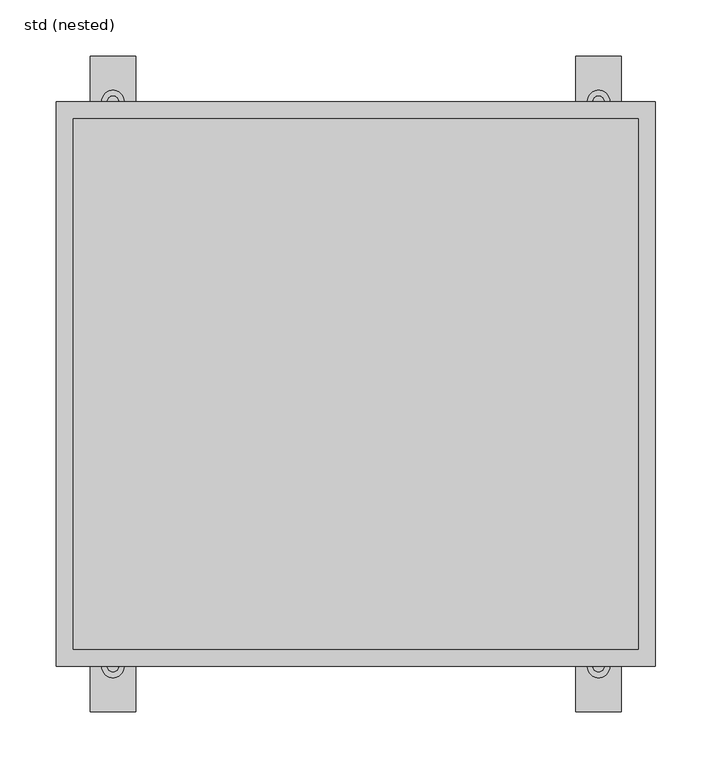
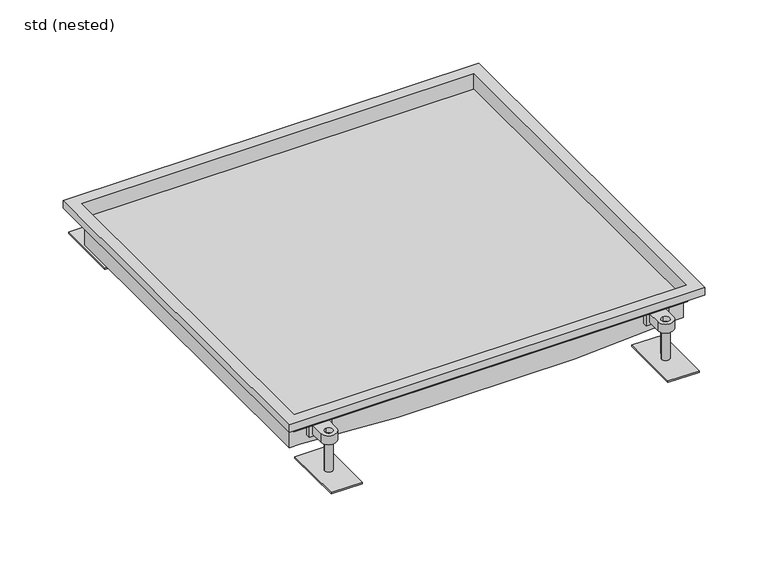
"""IFC4 building model written with IfcOpenShell, lengths in millimetres: sanitary terminal geometry, ZZZ_do not use_PF_ST_UN_hygienic box channel_ACO : std (nested)."""

from ifc_helpers import new_model, si_unit, point, frame, frame_2d, origin, place, context, project, spatial, polyline, circle_curve, trimmed, segment, composite_curve, outline, extrude, faceted_brep, source, transform, mapped, element, save
from ifc_brep_helpers import plane_surface, cylinder_surface, advanced_brep


def std_nested_bf99f5a6(model_context):
    return source(origin(), model_context, "Body", "SolidModel", [
        extrude(outline(composite_curve([segment(polyline([(225.0, 232.5), (205.0, 232.5), (205.0, 250.0)]), True, "CONTINUOUS"), segment(trimmed(circle_curve(frame_2d((215.0, 250.0)), 10.0), [point((205.0, 250.0))], [point((225.0, 250.0))], False, "CARTESIAN"), True, "CONTINUOUS"), segment(polyline([(225.0, 250.0), (225.0, 232.5)]), True, "CONTINUOUS")], self_intersect=False), holes=[composite_curve([segment(trimmed(circle_curve(frame_2d((215.0, 250.0)), 5.0), [point((215.0, 245.0))], [point((215.0, 255.0))], True, "CARTESIAN"), True, "CONTINUOUS"), segment(trimmed(circle_curve(frame_2d((215.0, 250.0)), 5.0), [point((215.0, 255.0))], [point((215.0, 245.0))], True, "CARTESIAN"), True, "CONTINUOUS")], self_intersect=False)]), frame((0.0, 0.0, -37.0), z_axis=(0.0, 0.0, 1.0), x_axis=(1.0, 0.0, 0.0)), (0.0, 0.0, 1.0), 12.0),
        advanced_brep(
        [(210.0, 250.0, -31.0), (220.0, 250.0, -31.0), (235.0, 210.0, -79.5), (195.0, 210.0, -79.5), (195.0, 290.0, -79.5), (235.0, 290.0, -79.5), (220.0, 250.0, -77.5), (210.0, 250.0, -77.5), (235.0, 210.0, -77.5), (235.0, 290.0, -77.5), (195.0, 290.0, -77.5), (195.0, 210.0, -77.5)],
        [
            (0, 1, circle_curve(frame((215.0, 250.0, -31.0), z_axis=(0.0, 0.0, 1.0), x_axis=(1.0, 0.0, 0.0)), 5.0)),
            (1, 0, circle_curve(frame((215.0, 250.0, -31.0), z_axis=(0.0, 0.0, 1.0), x_axis=(1.0, 0.0, 0.0)), 5.0)),
            (2, 3),
            (3, 4),
            (4, 5),
            (5, 2),
            (1, 6),
            (6, 7, circle_curve(frame((215.0, 250.0, -77.5), z_axis=(0.0, 0.0, 1.0), x_axis=(1.0, 0.0, 0.0)), 5.0)),
            (7, 0),
            (7, 6, circle_curve(frame((215.0, 250.0, -77.5), z_axis=(0.0, 0.0, 1.0), x_axis=(1.0, 0.0, 0.0)), 5.0)),
            (8, 9),
            (9, 10),
            (10, 11),
            (11, 8),
            (11, 3),
            (2, 8),
            (10, 4),
            (9, 5),
        ],
        [
            plane_surface(frame((220.0, 250.0, -31.0), z_axis=(0.0, 0.0, 1.0), x_axis=(0.0, -1.0, 0.0))),
            plane_surface(frame((220.0, 250.0, -79.5), z_axis=(0.0, 0.0, -1.0), x_axis=(0.0, 1.0, 0.0))),
            cylinder_surface(frame((215.0, 250.0, -79.5), z_axis=(0.0, 0.0, 1.0), x_axis=(1.0, 0.0, 0.0)), 5.0),
            plane_surface(frame((195.0, 210.0, -77.5), z_axis=(0.0, 0.0, 1.0), x_axis=(-1.0, 0.0, 0.0))),
            plane_surface(frame((235.0, 210.0, -77.5), z_axis=(0.0, -1.0, 0.0), x_axis=(0.0, 0.0, -1.0))),
            plane_surface(frame((195.0, 210.0, -77.5), z_axis=(-1.0, 0.0, 0.0), x_axis=(0.0, 0.0, -1.0))),
            plane_surface(frame((195.0, 290.0, -77.5), z_axis=(0.0, 1.0, 0.0), x_axis=(0.0, 0.0, -1.0))),
            plane_surface(frame((235.0, 290.0, -77.5), z_axis=(1.0, 0.0, 0.0), x_axis=(0.0, 0.0, -1.0))),
        ],
        [
            (0, [[1, 2]]),
            (1, [[3, 4, 5, 6]]),
            (2, [[7, 8, 9, -2]]),
            (2, [[-9, 10, -7, -1]]),
            (3, [[11, 12, 13, 14], [-10, -8]]),
            (4, [[15, -3, 16, -14]]),
            (5, [[17, -4, -15, -13]]),
            (6, [[18, -5, -17, -12]]),
            (7, [[-16, -6, -18, -11]]),
        ],
    ),
        extrude(outline(polyline([(229.35, 224.5), (200.65, 224.5), (200.65, 232.5), (229.35, 232.5), (229.35, 224.5)])), frame((0.0, 0.0, -40.0), z_axis=(0.0, 0.0, 1.0), x_axis=(1.0, 0.0, 0.0)), (0.0, 0.0, 1.0), 18.0),
        extrude(outline(composite_curve([segment(polyline([(225.0, -232.5), (225.0, -250.0)]), True, "CONTINUOUS"), segment(trimmed(circle_curve(frame_2d((215.0, -250.0)), 10.0), [point((225.0, -250.0))], [point((205.0, -250.0))], False, "CARTESIAN"), True, "CONTINUOUS"), segment(polyline([(205.0, -250.0), (205.0, -232.5), (225.0, -232.5)]), True, "CONTINUOUS")], self_intersect=False), holes=[composite_curve([segment(trimmed(circle_curve(frame_2d((215.0, -250.0)), 5.0), [point((215.0, -245.0))], [point((215.0, -255.0))], True, "CARTESIAN"), True, "CONTINUOUS"), segment(trimmed(circle_curve(frame_2d((215.0, -250.0)), 5.0), [point((215.0, -255.0))], [point((215.0, -245.0))], True, "CARTESIAN"), True, "CONTINUOUS")], self_intersect=False)]), frame((0.0, 0.0, -37.0), z_axis=(0.0, 0.0, 1.0), x_axis=(1.0, 0.0, 0.0)), (0.0, 0.0, 1.0), 12.0),
        advanced_brep(
        [(210.0, -250.0, -31.0), (220.0, -250.0, -31.0), (235.0, -210.0, -79.5), (235.0, -290.0, -79.5), (195.0, -290.0, -79.5), (195.0, -210.0, -79.5), (210.0, -250.0, -77.5), (220.0, -250.0, -77.5), (235.0, -210.0, -77.5), (195.0, -210.0, -77.5), (195.0, -290.0, -77.5), (235.0, -290.0, -77.5)],
        [
            (0, 1, circle_curve(frame((215.0, -250.0, -31.0), z_axis=(0.0, 0.0, 1.0), x_axis=(1.0, 0.0, 0.0)), 5.0)),
            (1, 0, circle_curve(frame((215.0, -250.0, -31.0), z_axis=(0.0, 0.0, 1.0), x_axis=(1.0, 0.0, 0.0)), 5.0)),
            (2, 3),
            (3, 4),
            (4, 5),
            (5, 2),
            (0, 6),
            (6, 7, circle_curve(frame((215.0, -250.0, -77.5), z_axis=(0.0, 0.0, 1.0), x_axis=(1.0, 0.0, 0.0)), 5.0)),
            (7, 1),
            (7, 6, circle_curve(frame((215.0, -250.0, -77.5), z_axis=(0.0, 0.0, 1.0), x_axis=(1.0, 0.0, 0.0)), 5.0)),
            (8, 9),
            (9, 10),
            (10, 11),
            (11, 8),
            (8, 2),
            (5, 9),
            (4, 10),
            (3, 11),
        ],
        [
            plane_surface(frame((220.0, -250.0, -31.0), z_axis=(0.0, 0.0, 1.0), x_axis=(0.0, 1.0, 0.0))),
            plane_surface(frame((220.0, -250.0, -79.5), z_axis=(0.0, 0.0, -1.0), x_axis=(0.0, -1.0, 0.0))),
            cylinder_surface(frame((215.0, -250.0, -79.5), z_axis=(0.0, 0.0, 1.0), x_axis=(1.0, 0.0, 0.0)), 5.0),
            plane_surface(frame((195.0, -210.0, -77.5), z_axis=(0.0, 0.0, 1.0), x_axis=(-1.0, 0.0, 0.0))),
            plane_surface(frame((235.0, -210.0, -77.5), z_axis=(0.0, 1.0, 0.0), x_axis=(0.0, 0.0, -1.0))),
            plane_surface(frame((195.0, -210.0, -77.5), z_axis=(-1.0, 0.0, 0.0), x_axis=(0.0, 0.0, -1.0))),
            plane_surface(frame((195.0, -290.0, -77.5), z_axis=(0.0, -1.0, 0.0), x_axis=(0.0, 0.0, -1.0))),
            plane_surface(frame((235.0, -290.0, -77.5), z_axis=(1.0, 0.0, 0.0), x_axis=(0.0, 0.0, -1.0))),
        ],
        [
            (0, [[1, 2]]),
            (1, [[3, 4, 5, 6]]),
            (2, [[-1, 7, 8, 9]]),
            (2, [[-2, -9, 10, -7]]),
            (3, [[11, 12, 13, 14], [-8, -10]]),
            (4, [[-11, 15, -6, 16]]),
            (5, [[-12, -16, -5, 17]]),
            (6, [[-13, -17, -4, 18]]),
            (7, [[-14, -18, -3, -15]]),
        ],
    ),
        extrude(outline(polyline([(229.35, -224.5), (229.35, -232.5), (200.65, -232.5), (200.65, -224.5), (229.35, -224.5)])), frame((0.0, 0.0, -40.0), z_axis=(0.0, 0.0, 1.0), x_axis=(1.0, 0.0, 0.0)), (0.0, 0.0, 1.0), 18.0),
        extrude(outline(composite_curve([segment(polyline([(-205.0, 232.5), (-225.0, 232.5), (-225.0, 250.0)]), True, "CONTINUOUS"), segment(trimmed(circle_curve(frame_2d((-215.0, 250.0)), 10.0), [point((-225.0, 250.0))], [point((-205.0, 250.0))], False, "CARTESIAN"), True, "CONTINUOUS"), segment(polyline([(-205.0, 250.0), (-205.0, 232.5)]), True, "CONTINUOUS")], self_intersect=False), holes=[composite_curve([segment(trimmed(circle_curve(frame_2d((-215.0, 250.0)), 5.0), [point((-215.0, 245.0))], [point((-215.0, 255.0))], True, "CARTESIAN"), True, "CONTINUOUS"), segment(trimmed(circle_curve(frame_2d((-215.0, 250.0)), 5.0), [point((-215.0, 255.0))], [point((-215.0, 245.0))], True, "CARTESIAN"), True, "CONTINUOUS")], self_intersect=False)]), frame((0.0, 0.0, -37.0), z_axis=(0.0, 0.0, 1.0), x_axis=(1.0, 0.0, 0.0)), (0.0, 0.0, 1.0), 12.0),
        advanced_brep(
        [(-220.0, 250.0, -31.0), (-210.0, 250.0, -31.0), (-195.0, 210.0, -79.5), (-235.0, 210.0, -79.5), (-235.0, 290.0, -79.5), (-195.0, 290.0, -79.5), (-210.0, 250.0, -77.5), (-220.0, 250.0, -77.5), (-195.0, 210.0, -77.5), (-195.0, 290.0, -77.5), (-235.0, 290.0, -77.5), (-235.0, 210.0, -77.5)],
        [
            (0, 1, circle_curve(frame((-215.0, 250.0, -31.0), z_axis=(0.0, 0.0, 1.0), x_axis=(1.0, 0.0, 0.0)), 5.0)),
            (1, 0, circle_curve(frame((-215.0, 250.0, -31.0), z_axis=(0.0, 0.0, 1.0), x_axis=(1.0, 0.0, 0.0)), 5.0)),
            (2, 3),
            (3, 4),
            (4, 5),
            (5, 2),
            (1, 6),
            (6, 7, circle_curve(frame((-215.0, 250.0, -77.5), z_axis=(0.0, 0.0, 1.0), x_axis=(1.0, 0.0, 0.0)), 5.0)),
            (7, 0),
            (7, 6, circle_curve(frame((-215.0, 250.0, -77.5), z_axis=(0.0, 0.0, 1.0), x_axis=(1.0, 0.0, 0.0)), 5.0)),
            (8, 9),
            (9, 10),
            (10, 11),
            (11, 8),
            (11, 3),
            (2, 8),
            (10, 4),
            (9, 5),
        ],
        [
            plane_surface(frame((-210.0, 250.0, -31.0), z_axis=(0.0, 0.0, 1.0), x_axis=(0.0, -1.0, 0.0))),
            plane_surface(frame((-210.0, 250.0, -79.5), z_axis=(0.0, 0.0, -1.0), x_axis=(0.0, 1.0, 0.0))),
            cylinder_surface(frame((-215.0, 250.0, -79.5), z_axis=(0.0, 0.0, 1.0), x_axis=(1.0, 0.0, 0.0)), 5.0),
            plane_surface(frame((-235.0, 210.0, -77.5), z_axis=(0.0, 0.0, 1.0), x_axis=(-1.0, 0.0, 0.0))),
            plane_surface(frame((-195.0, 210.0, -77.5), z_axis=(0.0, -1.0, 0.0), x_axis=(0.0, 0.0, -1.0))),
            plane_surface(frame((-235.0, 210.0, -77.5), z_axis=(-1.0, 0.0, 0.0), x_axis=(0.0, 0.0, -1.0))),
            plane_surface(frame((-235.0, 290.0, -77.5), z_axis=(0.0, 1.0, 0.0), x_axis=(0.0, 0.0, -1.0))),
            plane_surface(frame((-195.0, 290.0, -77.5), z_axis=(1.0, 0.0, 0.0), x_axis=(0.0, 0.0, -1.0))),
        ],
        [
            (0, [[1, 2]]),
            (1, [[3, 4, 5, 6]]),
            (2, [[7, 8, 9, -2]]),
            (2, [[-9, 10, -7, -1]]),
            (3, [[11, 12, 13, 14], [-10, -8]]),
            (4, [[15, -3, 16, -14]]),
            (5, [[17, -4, -15, -13]]),
            (6, [[18, -5, -17, -12]]),
            (7, [[-16, -6, -18, -11]]),
        ],
    ),
        extrude(outline(polyline([(-200.65, 224.5), (-229.35, 224.5), (-229.35, 232.5), (-200.65, 232.5), (-200.65, 224.5)])), frame((0.0, 0.0, -40.0), z_axis=(0.0, 0.0, 1.0), x_axis=(1.0, 0.0, 0.0)), (0.0, 0.0, 1.0), 18.0),
        extrude(outline(composite_curve([segment(polyline([(-205.0, -232.5), (-205.0, -250.0)]), True, "CONTINUOUS"), segment(trimmed(circle_curve(frame_2d((-215.0, -250.0)), 10.0), [point((-205.0, -250.0))], [point((-225.0, -250.0))], False, "CARTESIAN"), True, "CONTINUOUS"), segment(polyline([(-225.0, -250.0), (-225.0, -232.5), (-205.0, -232.5)]), True, "CONTINUOUS")], self_intersect=False), holes=[composite_curve([segment(trimmed(circle_curve(frame_2d((-215.0, -250.0)), 5.0), [point((-215.0, -245.0))], [point((-215.0, -255.0))], True, "CARTESIAN"), True, "CONTINUOUS"), segment(trimmed(circle_curve(frame_2d((-215.0, -250.0)), 5.0), [point((-215.0, -255.0))], [point((-215.0, -245.0))], True, "CARTESIAN"), True, "CONTINUOUS")], self_intersect=False)]), frame((0.0, 0.0, -37.0), z_axis=(0.0, 0.0, 1.0), x_axis=(1.0, 0.0, 0.0)), (0.0, 0.0, 1.0), 12.0),
        advanced_brep(
        [(-220.0, -250.0, -31.0), (-210.0, -250.0, -31.0), (-195.0, -210.0, -79.5), (-195.0, -290.0, -79.5), (-235.0, -290.0, -79.5), (-235.0, -210.0, -79.5), (-220.0, -250.0, -77.5), (-210.0, -250.0, -77.5), (-195.0, -210.0, -77.5), (-235.0, -210.0, -77.5), (-235.0, -290.0, -77.5), (-195.0, -290.0, -77.5)],
        [
            (0, 1, circle_curve(frame((-215.0, -250.0, -31.0), z_axis=(0.0, 0.0, 1.0), x_axis=(1.0, 0.0, 0.0)), 5.0)),
            (1, 0, circle_curve(frame((-215.0, -250.0, -31.0), z_axis=(0.0, 0.0, 1.0), x_axis=(1.0, 0.0, 0.0)), 5.0)),
            (2, 3),
            (3, 4),
            (4, 5),
            (5, 2),
            (0, 6),
            (6, 7, circle_curve(frame((-215.0, -250.0, -77.5), z_axis=(0.0, 0.0, 1.0), x_axis=(1.0, 0.0, 0.0)), 5.0)),
            (7, 1),
            (7, 6, circle_curve(frame((-215.0, -250.0, -77.5), z_axis=(0.0, 0.0, 1.0), x_axis=(1.0, 0.0, 0.0)), 5.0)),
            (8, 9),
            (9, 10),
            (10, 11),
            (11, 8),
            (8, 2),
            (5, 9),
            (4, 10),
            (3, 11),
        ],
        [
            plane_surface(frame((-210.0, -250.0, -31.0), z_axis=(0.0, 0.0, 1.0), x_axis=(0.0, 1.0, 0.0))),
            plane_surface(frame((-210.0, -250.0, -79.5), z_axis=(0.0, 0.0, -1.0), x_axis=(0.0, -1.0, 0.0))),
            cylinder_surface(frame((-215.0, -250.0, -79.5), z_axis=(0.0, 0.0, 1.0), x_axis=(1.0, 0.0, 0.0)), 5.0),
            plane_surface(frame((-235.0, -210.0, -77.5), z_axis=(0.0, 0.0, 1.0), x_axis=(-1.0, 0.0, 0.0))),
            plane_surface(frame((-195.0, -210.0, -77.5), z_axis=(0.0, 1.0, 0.0), x_axis=(0.0, 0.0, -1.0))),
            plane_surface(frame((-235.0, -210.0, -77.5), z_axis=(-1.0, 0.0, 0.0), x_axis=(0.0, 0.0, -1.0))),
            plane_surface(frame((-235.0, -290.0, -77.5), z_axis=(0.0, -1.0, 0.0), x_axis=(0.0, 0.0, -1.0))),
            plane_surface(frame((-195.0, -290.0, -77.5), z_axis=(1.0, 0.0, 0.0), x_axis=(0.0, 0.0, -1.0))),
        ],
        [
            (0, [[1, 2]]),
            (1, [[3, 4, 5, 6]]),
            (2, [[-1, 7, 8, 9]]),
            (2, [[-2, -9, 10, -7]]),
            (3, [[11, 12, 13, 14], [-8, -10]]),
            (4, [[-11, 15, -6, 16]]),
            (5, [[-12, -16, -5, 17]]),
            (6, [[-13, -17, -4, 18]]),
            (7, [[-14, -18, -3, -15]]),
        ],
    ),
        extrude(outline(polyline([(-200.65, -224.5), (-200.65, -232.5), (-229.35, -232.5), (-229.35, -224.5), (-200.65, -224.5)])), frame((0.0, 0.0, -40.0), z_axis=(0.0, 0.0, 1.0), x_axis=(1.0, 0.0, 0.0)), (0.0, 0.0, 1.0), 18.0),
        faceted_brep([(-250.0, 235.0, -22.0), (-250.0, 235.0, -20.5), (250.0, 235.0, -20.5), (250.0, 235.0, -22.0), (-250.0, -235.0, -20.5), (250.0, -235.0, -20.5), (-250.0, -235.0, -22.0), (250.0, -235.0, -22.0), (-250.0, -226.0, -22.0), (250.0, -226.0, -22.0), (250.0, 226.0, -22.0), (-250.0, 226.0, -22.0), (113.0, -226.0, -57.5), (236.5, -226.0, -50.0), (251.5, -226.0, -50.0), (251.5, -226.0, -22.0), (-251.5, -226.0, -22.0), (-251.5, -226.0, -50.0), (-236.5, -226.0, -50.0), (-113.0, -226.0, -57.5), (113.0, 226.0, -57.5), (236.5, 226.0, -50.0), (-113.0, 226.0, -57.5), (-236.5, 226.0, -50.0), (-251.5, 226.0, -50.0), (-251.5, 226.0, -22.0), (251.5, 226.0, -22.0), (251.5, 226.0, -50.0)], [[[0, 1, 2, 3]], [[1, 4, 5, 2]], [[4, 6, 7, 5]], [[6, 8, 9, 7]], [[10, 11, 0, 3]], [[12, 13, 14, 15, 9, 8, 16, 17, 18, 19]], [[13, 12, 20, 21]], [[21, 20, 22, 23, 24, 25, 11, 10, 26, 27]], [[22, 20, 12, 19]], [[19, 18, 23, 22]], [[24, 17, 16, 25]], [[25, 16, 8, 11]], [[17, 24, 23, 18]], [[4, 1, 0, 11, 8, 6]], [[5, 7, 9, 10, 3, 2]], [[26, 15, 14, 27]], [[15, 26, 10, 9]], [[27, 14, 13, 21]]]),
        advanced_brep(
        [(-100.0, 0.0, -126.5), (100.0, 0.0, -126.5), (0.0, 0.0, -126.5), (-100.0, 0.0, -65.0), (100.0, 0.0, -65.0), (-113.0, 0.0, -65.0), (113.0, 0.0, -65.0), (-113.0, 0.0, -57.5), (113.0, 0.0, -57.5), (0.0, 0.0, -57.5)],
        [
            (0, 1, circle_curve(frame((0.0, 0.0, -126.5), z_axis=(0.0, 0.0, -1.0), x_axis=(1.0, 0.0, 0.0)), 100.0)),
            (1, 2),
            (2, 0),
            (1, 0, circle_curve(frame((0.0, 0.0, -126.5), z_axis=(0.0, 0.0, -1.0), x_axis=(1.0, 0.0, 0.0)), 100.0)),
            (3, 4, circle_curve(frame((0.0, 0.0, -65.0), z_axis=(0.0, 0.0, -1.0), x_axis=(1.0, 0.0, 0.0)), 100.0)),
            (4, 1),
            (0, 3),
            (4, 3, circle_curve(frame((0.0, 0.0, -65.0), z_axis=(0.0, 0.0, -1.0), x_axis=(1.0, 0.0, 0.0)), 100.0)),
            (5, 6, circle_curve(frame((0.0, 0.0, -65.0), z_axis=(0.0, 0.0, -1.0), x_axis=(1.0, 0.0, 0.0)), 113.0)),
            (6, 4),
            (3, 5),
            (6, 5, circle_curve(frame((0.0, 0.0, -65.0), z_axis=(0.0, 0.0, -1.0), x_axis=(1.0, 0.0, 0.0)), 113.0)),
            (7, 8, circle_curve(frame((0.0, 0.0, -57.5), z_axis=(0.0, 0.0, -1.0), x_axis=(1.0, 0.0, 0.0)), 113.0)),
            (8, 6),
            (5, 7),
            (8, 7, circle_curve(frame((0.0, 0.0, -57.5), z_axis=(0.0, 0.0, -1.0), x_axis=(1.0, 0.0, 0.0)), 113.0)),
            (9, 8),
            (7, 9),
        ],
        [
            plane_surface(frame((0.0, 0.0, -126.5), z_axis=(0.0, 0.0, -1.0), x_axis=(1.0, 0.0, 0.0))),
            cylinder_surface(frame((0.0, 0.0, -135.0), z_axis=(0.0, 0.0, 1.0), x_axis=(1.0, 0.0, 0.0)), 100.0),
            plane_surface(frame((0.0, 0.0, -65.0), z_axis=(0.0, 0.0, -1.0), x_axis=(1.0, 0.0, 0.0))),
            cylinder_surface(frame((0.0, 0.0, -135.0), z_axis=(0.0, 0.0, 1.0), x_axis=(1.0, 0.0, 0.0)), 113.0),
            plane_surface(frame((0.0, 0.0, -57.5), z_axis=(0.0, 0.0, 1.0), x_axis=(1.0, 0.0, 0.0))),
        ],
        [
            (0, [[1, 2, 3]]),
            (0, [[4, -3, -2]]),
            (1, [[5, 6, -1, 7]]),
            (1, [[8, -7, -4, -6]]),
            (2, [[9, 10, -5, 11]]),
            (2, [[12, -11, -8, -10]]),
            (3, [[13, 14, -9, 15]]),
            (3, [[16, -15, -12, -14]]),
            (4, [[17, -13, 18]]),
            (4, [[-18, -16, -17]]),
        ],
    ),
        faceted_brep([(265.0, 250.0, -10.0), (265.0, 250.0, 0.0), (265.0, -250.0, 0.0), (265.0, -250.0, -10.0), (251.5, 236.5, -22.0), (251.5, 236.5, -1.5), (251.5, -236.5, -1.5), (251.5, -236.5, -22.0), (250.0, 235.0, 0.0), (250.0, 235.0, -22.0), (250.0, -235.0, -22.0), (250.0, -235.0, 0.0), (-265.0, -250.0, 0.0), (-265.0, -250.0, -10.0), (-251.5, -236.5, -1.5), (-251.5, -236.5, -22.0), (-250.0, -235.0, -22.0), (-250.0, -235.0, 0.0), (-265.0, 250.0, 0.0), (-265.0, 250.0, -10.0), (-251.5, 236.5, -1.5), (-251.5, 236.5, -22.0), (-250.0, 235.0, -22.0), (-250.0, 235.0, 0.0), (263.5, 248.5, -10.0), (-263.5, 248.5, -10.0), (-263.5, -248.5, -10.0), (263.5, -248.5, -10.0), (263.5, 248.5, -1.5), (263.5, -248.5, -1.5), (-263.5, -248.5, -1.5), (-263.5, 248.5, -1.5)], [[[0, 1, 2, 3]], [[4, 5, 6, 7]], [[8, 9, 10, 11]], [[3, 2, 12, 13]], [[7, 6, 14, 15]], [[11, 10, 16, 17]], [[13, 12, 18, 19]], [[15, 14, 20, 21]], [[17, 16, 22, 23]], [[19, 18, 1, 0]], [[3, 13, 19, 0], [24, 25, 26, 27]], [[21, 20, 5, 4]], [[7, 15, 21, 4], [9, 22, 16, 10]], [[23, 22, 9, 8]], [[1, 18, 12, 2], [11, 17, 23, 8]], [[28, 24, 27, 29]], [[29, 27, 26, 30]], [[30, 26, 25, 31]], [[31, 25, 24, 28]], [[29, 30, 31, 28], [5, 20, 14, 6]]]),
    ])


if __name__ == "__main__":
    model = new_model("IFC4")
    model_context = context("Model", 3, world=origin())
    ifc_project = project(units=[si_unit("LENGTHUNIT", "METRE", prefix="MILLI")], contexts=[model_context])
    site = spatial("IfcSite", under=ifc_project)
    building = spatial("IfcBuilding", under=site)
    placement = place(None, origin())
    std_nested_shape = std_nested_bf99f5a6(model_context)
    element("IfcSanitaryTerminal", 1, ObjectType="ZZZ_do not use_PF_ST_UN_hygienic box channel_ACO : std (nested)", at=placement, inside=building, context=model_context, shape_type="MappedRepresentation", body=[
        mapped(std_nested_shape, transform((0.0, 0.0, 0.0), x_axis=(1.0, 0.0, 0.0), y_axis=(0.0, 1.0, 0.0), z_axis=(0.0, 0.0, 1.0))),
    ])
    save(model, "model.ifc")
